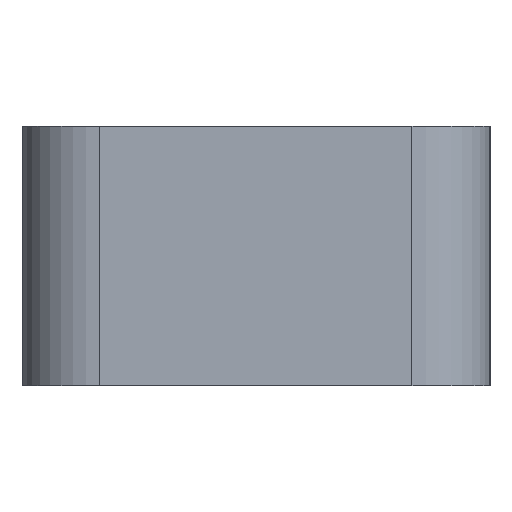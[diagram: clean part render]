
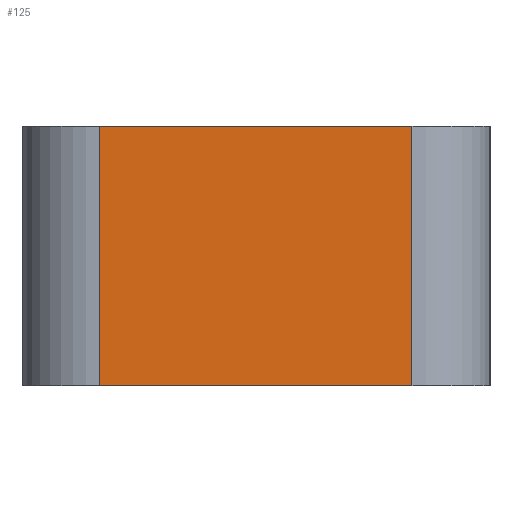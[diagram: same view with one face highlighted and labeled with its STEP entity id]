
A CAD part, left-side view. The second image highlights one B-rep face of the part: STEP entity #125.
In plain terms, the highlighted planar face has unit normal (-1, 0, 0).
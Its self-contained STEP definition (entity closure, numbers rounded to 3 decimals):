
#125=ADVANCED_FACE('',(#286),#288,.T.);
#286=FACE_BOUND('',#287,.T.);
#287=EDGE_LOOP('',(#385,#386,#387,#388));
#288=PLANE('',#289);
#289=AXIS2_PLACEMENT_3D('',#290,#291,#292);
#290=CARTESIAN_POINT('',(-46.5,3.,0.));
#291=DIRECTION('',(-1.,0.,0.));
#292=DIRECTION('',(0.,-1.,0.));
#385=ORIENTED_EDGE('',*,*,#443,.T.);
#386=ORIENTED_EDGE('',*,*,#445,.T.);
#387=ORIENTED_EDGE('',*,*,#423,.F.);
#388=ORIENTED_EDGE('',*,*,#446,.F.);
#423=EDGE_CURVE('',#461,#462,#463,.T.);
#443=EDGE_CURVE('',#488,#500,#502,.T.);
#445=EDGE_CURVE('',#500,#462,#505,.T.);
#446=EDGE_CURVE('',#488,#461,#506,.T.);
#461=VERTEX_POINT('',#533);
#462=VERTEX_POINT('',#534);
#463=LINE('',#535,#536);
#488=VERTEX_POINT('',#595);
#500=VERTEX_POINT('',#622);
#502=LINE('',#627,#628);
#505=LINE('',#635,#636);
#506=LINE('',#638,#639);
#533=CARTESIAN_POINT('',(-46.5,3.,5.));
#534=CARTESIAN_POINT('',(-46.5,-3.,5.));
#535=CARTESIAN_POINT('',(-46.5,3.,5.));
#536=VECTOR('',#537,1.);
#537=DIRECTION('',(0.,-1.,0.));
#595=CARTESIAN_POINT('',(-46.5,3.,0.));
#622=CARTESIAN_POINT('',(-46.5,-3.,0.));
#627=CARTESIAN_POINT('',(-46.5,3.,0.));
#628=VECTOR('',#629,1.);
#629=DIRECTION('',(0.,-1.,0.));
#635=CARTESIAN_POINT('',(-46.5,-3.,0.));
#636=VECTOR('',#637,1.);
#637=DIRECTION('',(0.,0.,1.));
#638=CARTESIAN_POINT('',(-46.5,3.,0.));
#639=VECTOR('',#640,1.);
#640=DIRECTION('',(0.,0.,1.));
